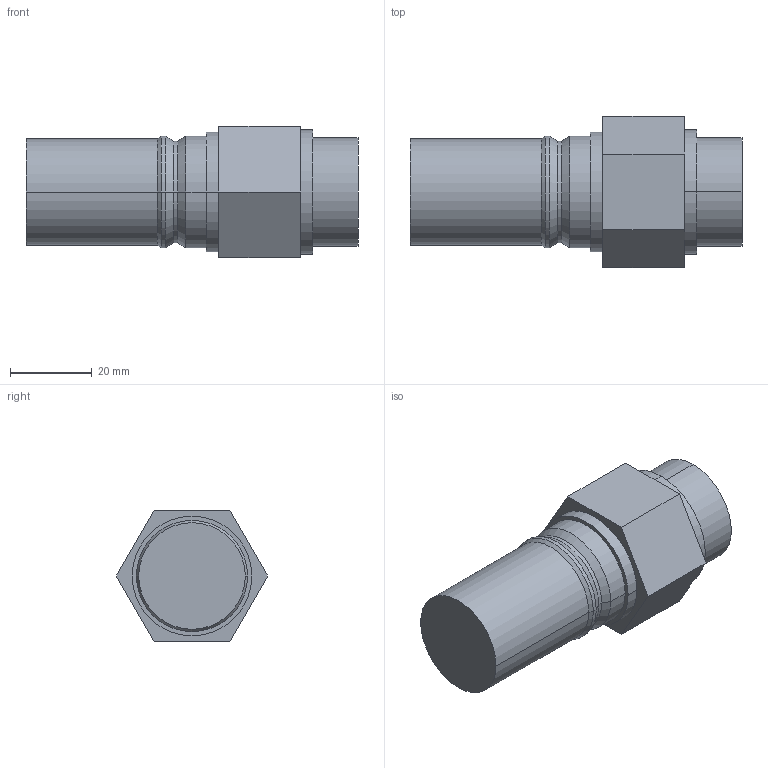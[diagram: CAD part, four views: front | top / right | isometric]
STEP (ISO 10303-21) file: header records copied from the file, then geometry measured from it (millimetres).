
FILE_DESCRIPTION (( 'STEP AP214' ), '1' );
FILE_NAME ('BR601.16 RRB 26.STEP', '2020-12-02T14:11:30', ( '' ), ( '' ), 'SwSTEP 2.0', 'SolidWorks 2018', '' );
FILE_SCHEMA (( 'AUTOMOTIVE_DESIGN' ));
Length unit declared in the file: millimetre
Products named in the file (1): BR601.16 RRB 26
Bounding box: 81 x 36.95 x 32 mm (x, y, z)
Volume: 51567.1 mm3; surface area: 9093.4 mm2
Topology: 1 solids, 1 shells, 32 faces, 66 edges, 40 vertices
Faces by surface type: cylinder 14, plane 12, cone 6
Entity records: 876 total; most frequent: DIRECTION 160, CARTESIAN_POINT 139, ORIENTED_EDGE 132, EDGE_CURVE 66, AXIS2_PLACEMENT_3D 61, VERTEX_POINT 40, LINE 38, VECTOR 38
